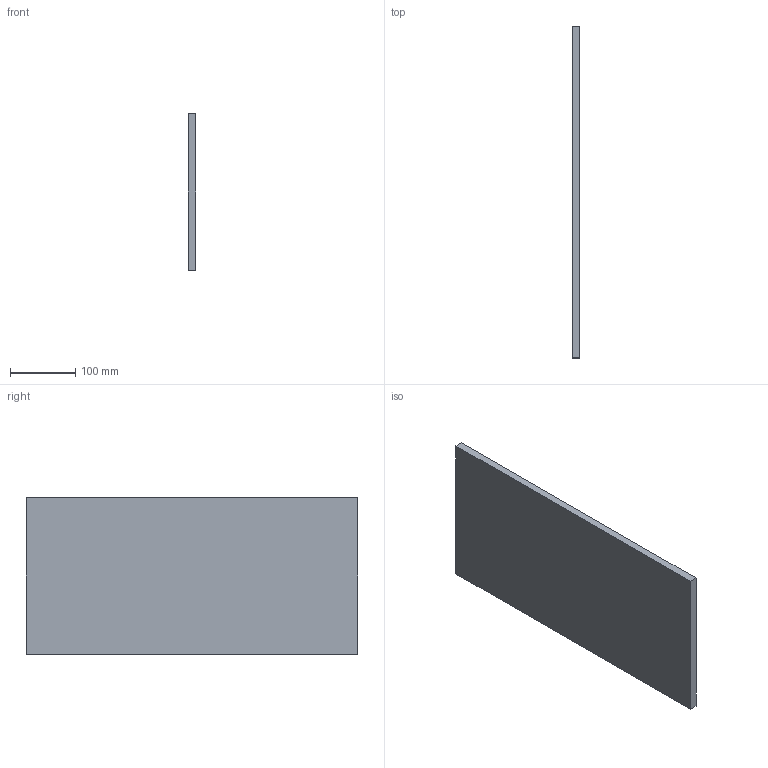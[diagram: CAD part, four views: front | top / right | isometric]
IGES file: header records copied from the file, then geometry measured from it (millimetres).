
Start section: Data from Parasolid IGES Translator 19.0.9, Copyright(c) 2006 Siemens PL M Software. All Rights Reserved.
Global section: file name: noorth-SI-H 24 D 51 W 1,2_9010.igs; native system: By Siemens PLM Incorporated; preprocessor: XPlus GENERIC/IGES 19.0.9; author: Noname; organization: Noname; date: 20200710.084524; units: metre
Bounding box: 12 x 508 x 240 mm (x, y, z)
Volume: 1463040 mm3; surface area: 261792 mm2
Topology: 1 solids, 1 shells, 6 faces, 12 edges, 8 vertices
Faces by surface type: plane 6
